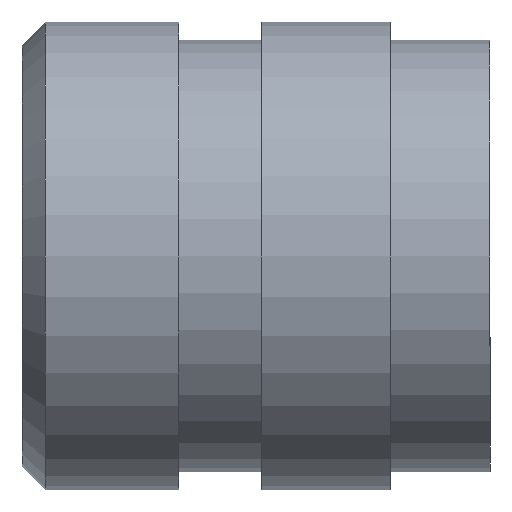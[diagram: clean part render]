
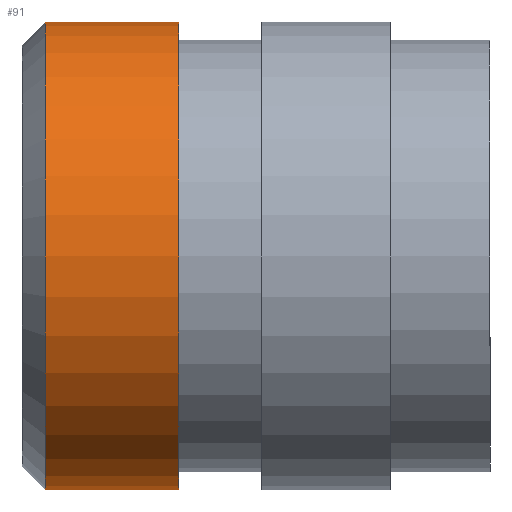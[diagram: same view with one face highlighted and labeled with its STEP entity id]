
A CAD part, front view. The second image highlights one B-rep face of the part: STEP entity #91.
In plain terms, the highlighted cylindrical face has radius 3.569 mm (diameter 7.137 mm), a partial arc.
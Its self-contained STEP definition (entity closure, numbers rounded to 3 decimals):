
#3=CARTESIAN_POINT('POINT2',(-6.781,0.,
   3.569));
#4=VERTEX_POINT('VERTEX2',#3);
#11=CARTESIAN_POINT('POINT3',(-6.781,0.,
   -3.569));
#12=VERTEX_POINT('VERTEX3',#11);
#13=CARTESIAN_POINT('POS2',(-6.781,0.,
   0.));
#14=DIRECTION('DIR2',(1.,0.,0.));
#15=DIRECTION('DIR3',(0.,0.,
   1.));
#16=AXIS2_PLACEMENT_3D('AXIS1',#13,#14,#15);
#17=CIRCLE('ELLIPSE1',#16,3.569);
#47=EDGE_CURVE('EDGE6',#4,#12,#17,.T.);
#52=CARTESIAN_POINT('POINT5',(-4.749,0.,
   3.569));
#53=VERTEX_POINT('VERTEX5',#52);
#54=CARTESIAN_POINT('POS6',(-5.765,0.,
   3.569));
#55=DIRECTION('DIR9',(1.,0.,0.));
#56=VECTOR('VEC3',#55,1.);
#57=LINE('STRAIGHT3',#54,#56);
#58=EDGE_CURVE('EDGE7',#4,#53,#57,.T.);
#60=CARTESIAN_POINT('POINT6',(-4.749,0.,
   -3.569));
#61=VERTEX_POINT('VERTEX6',#60);
#62=CARTESIAN_POINT('POS7',(-4.749,0.,
   0.));
#63=DIRECTION('DIR10',(1.,0.,0.));
#64=DIRECTION('DIR11',(0.,0.,
   1.));
#65=AXIS2_PLACEMENT_3D('AXIS4',#62,#63,#64);
#66=CIRCLE('ELLIPSE3',#65,3.569);
#69=CARTESIAN_POINT('POS8',(-5.765,0.,
   -3.569));
#70=DIRECTION('DIR12',(-1.,0.,0.));
#71=VECTOR('VEC4',#70,1.);
#72=LINE('STRAIGHT4',#69,#71);
#73=EDGE_CURVE('EDGE9',#61,#12,#72,.T.);
#78=CARTESIAN_POINT('POS9',(-5.765,0.,
   0.));
#79=DIRECTION('DIR13',(1.,0.,0.));
#80=DIRECTION('DIR14',(0.,0.,
   1.));
#81=AXIS2_PLACEMENT_3D('AXIS5',#78,#79,#80);
#82=CYLINDRICAL_SURFACE('CONE_SURF2',#81,3.569);
#84=ORIENTED_EDGE('COEDGE13',*,*,#58,.F.);
#85=ORIENTED_EDGE('COEDGE14',*,*,#47,.T.);
#86=ORIENTED_EDGE('COEDGE15',*,*,#73,.F.);
#87=EDGE_CURVE('EDGE10',#53,#61,#66,.T.);
#88=ORIENTED_EDGE('COEDGE16',*,*,#87,.F.);
#89=EDGE_LOOP('NONE',(#84,#85,#86,#88));
#90=FACE_BOUND('LOOP1',#89,.T.);
#91=ADVANCED_FACE('FACE4',(#90),#82,.T.);
